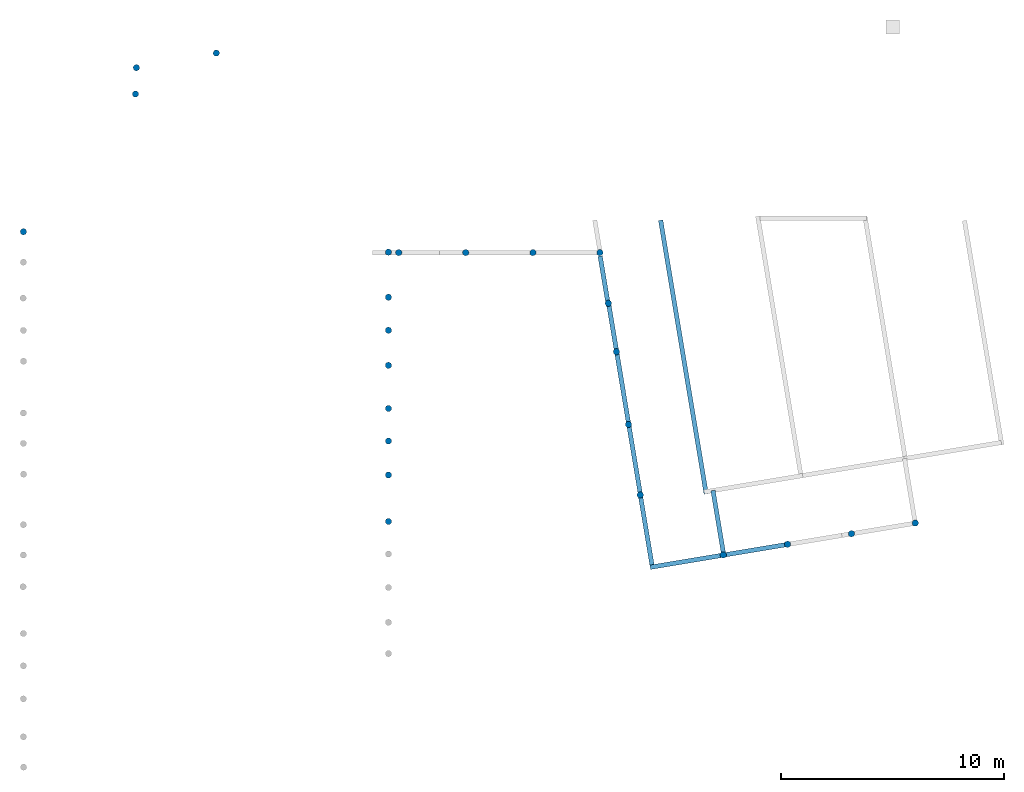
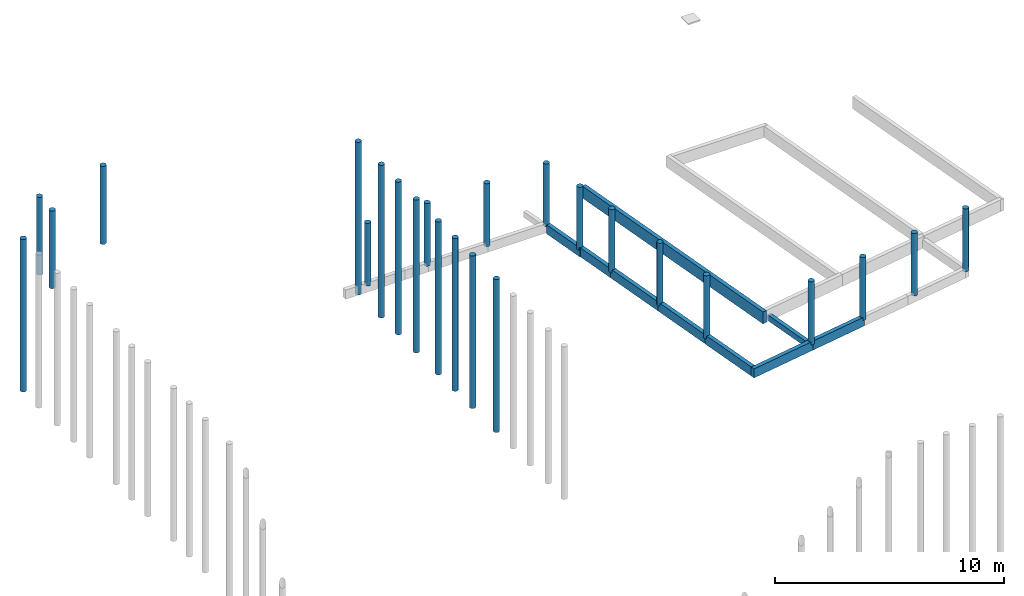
# One storey, part 2 of 4: 24 columns, 9 slabs.
"""IFC4 building model written with IfcOpenShell, lengths in metres."""

from ifc_helpers import new_model, entity, si_unit, converted_unit, derived_unit, direction, frame, origin, place, context, subcontext, project, spatial, arc, indexed_curve, outline, extrude, source, transform, mapped, material, type_object, type_shapes, element, save


model = new_model("IFC4")

# Units and contexts
model_context = context("Model", 3, precision=1e-05, world=origin(), true_north=direction((6.123031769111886e-17, 1.0)))
body_context = subcontext(model_context, "Body", "Model", "MODEL_VIEW")
ifc_project = project(units=[si_unit("LENGTHUNIT", "METRE"), si_unit("AREAUNIT", "SQUARE_METRE"), si_unit("VOLUMEUNIT", "CUBIC_METRE"), converted_unit("PLANEANGLEUNIT", "DEGREE", entity("IfcRatioMeasure", 0.017453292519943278), si_unit("PLANEANGLEUNIT", "RADIAN"), dimensions=[0, 0, 0, 0, 0, 0, 0]), si_unit("MASSUNIT", "GRAM", prefix="KILO"), derived_unit("MASSDENSITYUNIT", [(si_unit("MASSUNIT", "GRAM", prefix="KILO"), 1), (si_unit("LENGTHUNIT", "METRE"), -3)]), derived_unit("MOMENTOFINERTIAUNIT", [(si_unit("LENGTHUNIT", "METRE"), 4)]), si_unit("TIMEUNIT", "SECOND"), si_unit("FREQUENCYUNIT", "HERTZ"), si_unit("THERMODYNAMICTEMPERATUREUNIT", "DEGREE_CELSIUS"), derived_unit("THERMALTRANSMITTANCEUNIT", [(si_unit("MASSUNIT", "GRAM", prefix="KILO"), 1), (si_unit("THERMODYNAMICTEMPERATUREUNIT", "KELVIN"), -1), (si_unit("TIMEUNIT", "SECOND"), -3)]), derived_unit("VOLUMETRICFLOWRATEUNIT", [(si_unit("LENGTHUNIT", "METRE"), 3), (si_unit("TIMEUNIT", "SECOND"), -1)]), derived_unit("MASSFLOWRATEUNIT", [(si_unit("MASSUNIT", "GRAM", prefix="KILO"), 1), (si_unit("TIMEUNIT", "SECOND"), -1)]), derived_unit("ROTATIONALFREQUENCYUNIT", [(si_unit("TIMEUNIT", "SECOND"), -1)]), si_unit("ELECTRICCURRENTUNIT", "AMPERE"), si_unit("ELECTRICVOLTAGEUNIT", "VOLT"), si_unit("POWERUNIT", "WATT"), si_unit("FORCEUNIT", "NEWTON", prefix="KILO"), si_unit("ILLUMINANCEUNIT", "LUX"), si_unit("LUMINOUSFLUXUNIT", "LUMEN"), si_unit("LUMINOUSINTENSITYUNIT", "CANDELA"), derived_unit("USERDEFINED", [(si_unit("MASSUNIT", "GRAM", prefix="KILO"), -1), (si_unit("LENGTHUNIT", "METRE"), -2), (si_unit("TIMEUNIT", "SECOND"), 3), (si_unit("LUMINOUSFLUXUNIT", "LUMEN"), 1)]), derived_unit("SOUNDPOWERUNIT", [(si_unit("MASSUNIT", "GRAM", prefix="KILO"), 1), (si_unit("LENGTHUNIT", "METRE"), 2), (si_unit("TIMEUNIT", "SECOND"), -3)]), derived_unit("SOUNDPRESSUREUNIT", [(si_unit("MASSUNIT", "GRAM", prefix="KILO"), 1), (si_unit("LENGTHUNIT", "METRE"), -1), (si_unit("TIMEUNIT", "SECOND"), -2)]), derived_unit("LINEARVELOCITYUNIT", [(si_unit("LENGTHUNIT", "METRE"), 1), (si_unit("TIMEUNIT", "SECOND"), -1)]), si_unit("PRESSUREUNIT", "PASCAL"), derived_unit("USERDEFINED", [(si_unit("LENGTHUNIT", "METRE"), -2), (si_unit("MASSUNIT", "GRAM", prefix="KILO"), 1), (si_unit("TIMEUNIT", "SECOND"), -2)]), derived_unit("LINEARFORCEUNIT", [(si_unit("MASSUNIT", "GRAM", prefix="KILO"), 1), (si_unit("LENGTHUNIT", "METRE"), 1), (si_unit("TIMEUNIT", "SECOND"), -2), (si_unit("LENGTHUNIT", "METRE"), -1)]), derived_unit("PLANARFORCEUNIT", [(si_unit("MASSUNIT", "GRAM", prefix="KILO"), 1), (si_unit("LENGTHUNIT", "METRE"), 1), (si_unit("TIMEUNIT", "SECOND"), -2), (si_unit("LENGTHUNIT", "METRE"), -2)])], contexts=[model_context])

# Site, building, storey
site_placement = place(None, origin())
site = spatial("IfcSite", under=ifc_project, at=site_placement, Name="Default", CompositionType="ELEMENT")
building_placement = place(site_placement, origin())
building = spatial("IfcBuilding", under=site, at=building_placement, CompositionType="ELEMENT")
storey_placement = place(building_placement, frame((0.0, 0.0, -0.63)))
storey = spatial("IfcBuildingStorey", under=building, at=storey_placement, Name="Arase inf longrines", CompositionType="ELEMENT", Elevation=-0.63)

# Columns
ifc_material = material(Name="Maçonnerie - Béton", Category="Béton")
column_type_1 = type_object("IfcColumnType", Name="Poteaux support métallique:Poteaux support métallique", PredefinedType="COLUMN", material=ifc_material)
shared_shape_1 = source(origin(), body_context, "Body", "SweptSolid", [
    extrude(outline(indexed_curve([(0.14142135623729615, 0.0), (1.0828671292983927e-15, 0.14142135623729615), (-0.14142135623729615, 0.0), (0.0, -0.14142135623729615)], segments=[arc(1, 2, 3), arc(3, 4, 1)], self_intersect=False)), frame((-6.983450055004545, 9.159106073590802, -0.2924095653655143), z_axis=(0.0, 0.0, 1.0), x_axis=(-1.0, 0.0, 0.0)), (0.0, 0.0, 1.0), 3.3347972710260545),
])
type_shapes(column_type_1, [shared_shape_1])
column_1_placement = place(storey_placement, frame((0.0, 0.0, 0.63)))
element("IfcColumn", 1, at=column_1_placement, inside=storey, type_object=column_type_1, material=ifc_material, Name="Poteaux support métallique:Poteaux support métallique", ObjectType="Poteaux support métallique:Poteaux support métallique", PredefinedType="COLUMN", context=body_context, shape_type="MappedRepresentation", body=[
    mapped(shared_shape_1, transform((0.0, 0.0, 0.0), scale=1.0)),
])
column_type_2 = type_object("IfcColumnType", Name="Poteaux support métallique1:Poteaux support métallique", PredefinedType="COLUMN", material=ifc_material)
shared_shape_2 = source(origin(), body_context, "Body", "SweptSolid", [
    extrude(outline(indexed_curve([(0.14142135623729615, 0.0), (1.0828671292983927e-15, 0.14142135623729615), (-0.14142135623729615, 0.0), (0.0, -0.14142135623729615)], segments=[arc(1, 2, 3), arc(3, 4, 1)], self_intersect=False)), frame((-6.983450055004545, 9.159106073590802, -0.30164232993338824), z_axis=(0.0, 0.0, 1.0), x_axis=(-1.0, 0.0, 0.0)), (0.0, 0.0, 1.0), 3.3531186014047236),
])
type_shapes(column_type_2, [shared_shape_2])
column_2_placement = place(storey_placement, frame((3.0099999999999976, 0.0, 0.6299999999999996)))
element("IfcColumn", 2, at=column_2_placement, inside=storey, type_object=column_type_2, material=ifc_material, Name="Poteaux support métallique1:Poteaux support métallique", ObjectType="Poteaux support métallique1:Poteaux support métallique", PredefinedType="COLUMN", context=body_context, shape_type="MappedRepresentation", body=[
    mapped(shared_shape_2, transform((0.0, 0.0, 0.0), scale=1.0)),
])
column_type_3 = type_object("IfcColumnType", Name="Poteaux support métallique2:Poteaux support métallique", PredefinedType="COLUMN", material=ifc_material)
shared_shape_3 = source(origin(), body_context, "Body", "SweptSolid", [
    extrude(outline(indexed_curve([(0.14142135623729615, 0.0), (1.0828671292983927e-15, 0.14142135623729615), (-0.14142135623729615, 0.0), (0.0, -0.14142135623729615)], segments=[arc(1, 2, 3), arc(3, 4, 1)], self_intersect=False)), frame((-6.983450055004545, 9.159106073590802, -0.30164232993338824), z_axis=(0.0, 0.0, 1.0), x_axis=(-1.0, 0.0, 0.0)), (0.0, 0.0, 1.0), 3.3469615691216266),
])
type_shapes(column_type_3, [shared_shape_3])
column_3_placement = place(storey_placement, frame((6.009999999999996, 0.0, 0.6299999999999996)))
element("IfcColumn", 3, at=column_3_placement, inside=storey, type_object=column_type_3, material=ifc_material, Name="Poteaux support métallique2:Poteaux support métallique", ObjectType="Poteaux support métallique2:Poteaux support métallique", PredefinedType="COLUMN", context=body_context, shape_type="MappedRepresentation", body=[
    mapped(shared_shape_3, transform((0.0, 0.0, 0.0), scale=1.0)),
])
column_type_4 = type_object("IfcColumnType", Name="Poteaux support métallique3:Poteaux support métallique", PredefinedType="COLUMN", material=ifc_material)
shared_shape_4 = source(origin(), body_context, "Body", "SweptSolid", [
    extrude(outline(indexed_curve([(0.14142135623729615, 0.0), (1.0828671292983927e-15, 0.14142135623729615), (-0.14142135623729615, 0.0), (0.0, -0.14142135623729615)], segments=[arc(1, 2, 3), arc(3, 4, 1)], self_intersect=False)), frame((-6.983450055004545, 9.159106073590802, -0.3069051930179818), z_axis=(0.0, 0.0, 1.0), x_axis=(-1.0, 0.0, 0.0)), (0.0, 0.0, 1.0), 3.362177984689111),
])
type_shapes(column_type_4, [shared_shape_4])
column_4_placement = place(storey_placement, frame((6.387629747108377, -2.268787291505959, 0.6299999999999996)))
element("IfcColumn", 4, at=column_4_placement, inside=storey, type_object=column_type_4, material=ifc_material, Name="Poteaux support métallique3:Poteaux support métallique", ObjectType="Poteaux support métallique3:Poteaux support métallique", PredefinedType="COLUMN", context=body_context, shape_type="MappedRepresentation", body=[
    mapped(shared_shape_4, transform((0.0, 0.0, 0.0), scale=1.0)),
])
column_type_5 = type_object("IfcColumnType", Name="Poteaux support métallique4:Poteaux support métallique", PredefinedType="COLUMN", material=ifc_material)
shared_shape_5 = source(origin(), body_context, "Body", "SweptSolid", [
    extrude(outline(indexed_curve([(0.14142135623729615, 0.0), (1.0828671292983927e-15, 0.14142135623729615), (-0.14142135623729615, 0.0), (0.0, -0.14142135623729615)], segments=[arc(1, 2, 3), arc(3, 4, 1)], self_intersect=False)), frame((-6.983450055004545, 9.159106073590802, -0.31876809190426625), z_axis=(0.0, 0.0, 1.0), x_axis=(-1.0, 0.0, 0.0)), (0.0, 0.0, 1.0), 3.368415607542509),
])
type_shapes(column_type_5, [shared_shape_5])
column_5_placement = place(storey_placement, frame((6.748840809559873, -4.438931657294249, 0.6299999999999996)))
element("IfcColumn", 5, at=column_5_placement, inside=storey, type_object=column_type_5, material=ifc_material, Name="Poteaux support métallique4:Poteaux support métallique", ObjectType="Poteaux support métallique4:Poteaux support métallique", PredefinedType="COLUMN", context=body_context, shape_type="MappedRepresentation", body=[
    mapped(shared_shape_5, transform((0.0, 0.0, 0.0), scale=1.0)),
])
column_type_6 = type_object("IfcColumnType", Name="Poteaux support métallique5:Poteaux support métallique", PredefinedType="COLUMN", material=ifc_material)
shared_shape_6 = source(origin(), body_context, "Body", "SweptSolid", [
    extrude(outline(indexed_curve([(0.14142135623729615, 0.0), (1.0828671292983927e-15, 0.14142135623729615), (-0.14142135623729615, 0.0), (0.0, -0.14142135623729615)], segments=[arc(1, 2, 3), arc(3, 4, 1)], self_intersect=False)), frame((-6.983450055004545, 9.159106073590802, -0.29504229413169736), z_axis=(0.0, 0.0, 1.0), x_axis=(-1.0, 0.0, 0.0)), (0.0, 0.0, 1.0), 3.339698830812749),
])
type_shapes(column_type_6, [shared_shape_6])
column_6_placement = place(storey_placement, frame((7.290657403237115, -7.694148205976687, 0.6299999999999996)))
element("IfcColumn", 6, at=column_6_placement, inside=storey, type_object=column_type_6, material=ifc_material, Name="Poteaux support métallique5:Poteaux support métallique", ObjectType="Poteaux support métallique5:Poteaux support métallique", PredefinedType="COLUMN", context=body_context, shape_type="MappedRepresentation", body=[
    mapped(shared_shape_6, transform((0.0, 0.0, 0.0), scale=1.0)),
])
column_type_7 = type_object("IfcColumnType", Name="Poteaux support métallique6:Poteaux support métallique", PredefinedType="COLUMN", material=ifc_material)
shared_shape_7 = source(origin(), body_context, "Body", "SweptSolid", [
    extrude(outline(indexed_curve([(0.14142135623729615, 0.0), (1.0828671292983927e-15, 0.14142135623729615), (-0.14142135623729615, 0.0), (0.0, -0.14142135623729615)], segments=[arc(1, 2, 3), arc(3, 4, 1)], self_intersect=False)), frame((-6.983450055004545, 9.159106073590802, -0.31876809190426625), z_axis=(0.0, 0.0, 1.0), x_axis=(-1.0, 0.0, 0.0)), (0.0, 0.0, 1.0), 3.36342462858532),
])
type_shapes(column_type_7, [shared_shape_7])
column_7_placement = place(storey_placement, frame((7.816055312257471, -10.850721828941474, 0.6299999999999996)))
element("IfcColumn", 7, at=column_7_placement, inside=storey, type_object=column_type_7, material=ifc_material, Name="Poteaux support métallique6:Poteaux support métallique", ObjectType="Poteaux support métallique6:Poteaux support métallique", PredefinedType="COLUMN", context=body_context, shape_type="MappedRepresentation", body=[
    mapped(shared_shape_7, transform((0.0, 0.0, 0.0), scale=1.0)),
])
column_type_8 = type_object("IfcColumnType", Name="Poteaux support métallique8:Poteaux support métallique", PredefinedType="COLUMN", material=ifc_material)
shared_shape_8 = source(origin(), body_context, "Body", "SweptSolid", [
    extrude(outline(indexed_curve([(0.14142135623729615, 0.0), (1.0828671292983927e-15, 0.14142135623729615), (-0.14142135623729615, 0.0), (0.0, -0.14142135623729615)], segments=[arc(1, 2, 3), arc(3, 4, 1)], self_intersect=False)), frame((-6.983450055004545, 9.159106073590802, -0.31042048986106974), z_axis=(0.0, 0.0, 1.0), x_axis=(-1.0, 0.0, 0.0)), (0.0, 0.0, 1.0), 3.3623372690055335),
])
type_shapes(column_type_8, [shared_shape_8])
column_8_placement = place(storey_placement, frame((11.534445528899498, -13.540540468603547, 0.6299999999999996)))
element("IfcColumn", 8, at=column_8_placement, inside=storey, type_object=column_type_8, material=ifc_material, Name="Poteaux support métallique8:Poteaux support métallique", ObjectType="Poteaux support métallique8:Poteaux support métallique", PredefinedType="COLUMN", context=body_context, shape_type="MappedRepresentation", body=[
    mapped(shared_shape_8, transform((0.0, 0.0, 0.0), scale=1.0)),
])
column_type_9 = type_object("IfcColumnType", Name="Poteaux support métallique9:Poteaux support métallique", PredefinedType="COLUMN", material=ifc_material)
shared_shape_9 = source(origin(), body_context, "Body", "SweptSolid", [
    extrude(outline(indexed_curve([(0.14142135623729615, 0.0), (1.0828671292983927e-15, 0.14142135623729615), (-0.14142135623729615, 0.0), (0.0, -0.14142135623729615)], segments=[arc(1, 2, 3), arc(3, 4, 1)], self_intersect=False)), frame((-6.983450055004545, 9.159106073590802, -0.2976400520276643), z_axis=(0.0, 0.0, 1.0), x_axis=(-1.0, 0.0, 0.0)), (0.0, 0.0, 1.0), 3.3442634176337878),
])
type_shapes(column_type_9, [shared_shape_9])
column_9_placement = place(storey_placement, frame((14.415090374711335, -13.064398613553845, 0.6299999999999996)))
element("IfcColumn", 9, at=column_9_placement, inside=storey, type_object=column_type_9, material=ifc_material, Name="Poteaux support métallique9:Poteaux support métallique", ObjectType="Poteaux support métallique9:Poteaux support métallique", PredefinedType="COLUMN", context=body_context, shape_type="MappedRepresentation", body=[
    mapped(shared_shape_9, transform((0.0, 0.0, 0.0), scale=1.0)),
])
column_type_10 = type_object("IfcColumnType", Name="Poteaux support métallique10:Poteaux support métallique", PredefinedType="COLUMN", material=ifc_material)
shared_shape_10 = source(origin(), body_context, "Body", "SweptSolid", [
    extrude(outline(indexed_curve([(0.14142135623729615, 0.0), (1.0828671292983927e-15, 0.14142135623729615), (-0.14142135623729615, 0.0), (0.0, -0.14142135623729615)], segments=[arc(1, 2, 3), arc(3, 4, 1)], self_intersect=False)), frame((-6.983450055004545, 9.159106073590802, -0.2976400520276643), z_axis=(0.0, 0.0, 1.0), x_axis=(-1.0, 0.0, 0.0)), (0.0, 0.0, 1.0), 3.334654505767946),
])
type_shapes(column_type_10, [shared_shape_10])
column_10_placement = place(storey_placement, frame((17.27573522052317, -12.588256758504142, 0.6299999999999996)))
element("IfcColumn", 10, at=column_10_placement, inside=storey, type_object=column_type_10, material=ifc_material, Name="Poteaux support métallique10:Poteaux support métallique", ObjectType="Poteaux support métallique10:Poteaux support métallique", PredefinedType="COLUMN", context=body_context, shape_type="MappedRepresentation", body=[
    mapped(shared_shape_10, transform((0.0, 0.0, 0.0), scale=1.0)),
])
column_type_11 = type_object("IfcColumnType", Name="Poteaux support métallique11:Poteaux support métallique", PredefinedType="COLUMN", material=ifc_material)
shared_shape_11 = source(origin(), body_context, "Body", "SweptSolid", [
    extrude(outline(indexed_curve([(0.14142135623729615, 0.0), (1.0828671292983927e-15, 0.14142135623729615), (-0.14142135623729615, 0.0), (0.0, -0.14142135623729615)], segments=[arc(1, 2, 3), arc(3, 4, 1)], self_intersect=False)), frame((-6.983450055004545, 9.159106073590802, -0.2976400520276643), z_axis=(0.0, 0.0, 1.0), x_axis=(-1.0, 0.0, 0.0)), (0.0, 0.0, 1.0), 3.3532344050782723),
])
type_shapes(column_type_11, [shared_shape_11])
column_11_placement = place(storey_placement, frame((20.136380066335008, -12.11211490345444, 0.6299999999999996)))
element("IfcColumn", 11, at=column_11_placement, inside=storey, type_object=column_type_11, material=ifc_material, Name="Poteaux support métallique11:Poteaux support métallique", ObjectType="Poteaux support métallique11:Poteaux support métallique", PredefinedType="COLUMN", context=body_context, shape_type="MappedRepresentation", body=[
    mapped(shared_shape_11, transform((0.0, 0.0, 0.0), scale=1.0)),
])
column_type_12 = type_object("IfcColumnType", Name="Poteaux support métallique12:Poteaux support métallique", PredefinedType="COLUMN", material=ifc_material)
shared_shape_12 = source(origin(), body_context, "Body", "SweptSolid", [
    extrude(outline(indexed_curve([(0.14142135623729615, 0.0), (1.0828671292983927e-15, 0.14142135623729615), (-0.14142135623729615, 0.0), (0.0, -0.14142135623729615)], segments=[arc(1, 2, 3), arc(3, 4, 1)], self_intersect=False)), frame((-6.983450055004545, 9.159106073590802, -0.30164232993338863), z_axis=(0.0, 0.0, 1.0), x_axis=(-1.0, 0.0, 0.0)), (0.0, 0.0, 1.0), 3.343921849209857),
])
type_shapes(column_type_12, [shared_shape_12])
column_12_placement = place(storey_placement, frame((-3.0, 0.0, 0.63)))
element("IfcColumn", 12, at=column_12_placement, inside=storey, type_object=column_type_12, material=ifc_material, Name="Poteaux support métallique12:Poteaux support métallique", ObjectType="Poteaux support métallique12:Poteaux support métallique", PredefinedType="COLUMN", context=body_context, shape_type="MappedRepresentation", body=[
    mapped(shared_shape_12, transform((0.0, 0.0, 0.0), scale=1.0)),
])
column_type_13 = type_object("IfcColumnType", Name="Poteaux support métallique13:Poteaux support métallique", PredefinedType="COLUMN", material=ifc_material)
shared_shape_13 = source(origin(), body_context, "Body", "SweptSolid", [
    extrude(outline(indexed_curve([(0.14142135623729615, 0.0), (1.0828671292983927e-15, 0.14142135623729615), (-0.14142135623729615, 0.0), (0.0, -0.14142135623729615)], segments=[arc(1, 2, 3), arc(3, 4, 1)], self_intersect=False)), frame((-6.983450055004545, 9.159106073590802, -0.6250722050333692), z_axis=(0.0, 0.0, 1.0), x_axis=(-1.0, 0.0, 0.0)), (0.0, 0.0, 1.0), 8.133194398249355),
])
type_shapes(column_type_13, [shared_shape_13])
column_13_placement = place(storey_placement, frame((-3.4599999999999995, 0.020000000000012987, 0.63)))
element("IfcColumn", 13, at=column_13_placement, inside=storey, type_object=column_type_13, material=ifc_material, Name="Poteaux support métallique13:Poteaux support métallique", ObjectType="Poteaux support métallique13:Poteaux support métallique", PredefinedType="COLUMN", context=body_context, shape_type="MappedRepresentation", body=[
    mapped(shared_shape_13, transform((0.0, 0.0, 0.0), scale=1.0)),
])
column_type_14 = type_object("IfcColumnType", Name="Poteaux support métallique14:Poteaux support métallique", PredefinedType="COLUMN", material=ifc_material)
shared_shape_14 = source(origin(), body_context, "Body", "SweptSolid", [
    extrude(outline(indexed_curve([(0.14142135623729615, 0.0), (1.0828671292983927e-15, 0.14142135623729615), (-0.14142135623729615, 0.0), (0.0, -0.14142135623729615)], segments=[arc(1, 2, 3), arc(3, 4, 1)], self_intersect=False)), frame((-6.983450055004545, 9.159106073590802, -0.6259069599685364), z_axis=(0.0, 0.0, 1.0), x_axis=(-1.0, 0.0, 0.0)), (0.0, 0.0, 1.0), 8.133178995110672),
])
type_shapes(column_type_14, [shared_shape_14])
column_14_placement = place(storey_placement, frame((-3.460000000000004, -2.0, 0.63)))
element("IfcColumn", 14, at=column_14_placement, inside=storey, type_object=column_type_14, material=ifc_material, Name="Poteaux support métallique14:Poteaux support métallique", ObjectType="Poteaux support métallique14:Poteaux support métallique", PredefinedType="COLUMN", context=body_context, shape_type="MappedRepresentation", body=[
    mapped(shared_shape_14, transform((0.0, 0.0, 0.0), scale=1.0)),
])
column_type_15 = type_object("IfcColumnType", Name="Poteaux support métallique15:Poteaux support métallique", PredefinedType="COLUMN", material=ifc_material)
shared_shape_15 = source(origin(), body_context, "Body", "SweptSolid", [
    extrude(outline(indexed_curve([(0.14142135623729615, 0.0), (1.0828671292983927e-15, 0.14142135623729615), (-0.14142135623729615, 0.0), (0.0, -0.14142135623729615)], segments=[arc(1, 2, 3), arc(3, 4, 1)], self_intersect=False)), frame((-6.983450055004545, 9.159106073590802, -0.6259069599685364), z_axis=(0.0, 0.0, 1.0), x_axis=(-1.0, 0.0, 0.0)), (0.0, 0.0, 1.0), 8.132542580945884),
])
type_shapes(column_type_15, [shared_shape_15])
column_15_placement = place(storey_placement, frame((-3.460000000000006, -3.4799999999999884, 0.63)))
element("IfcColumn", 15, at=column_15_placement, inside=storey, type_object=column_type_15, material=ifc_material, Name="Poteaux support métallique15:Poteaux support métallique", ObjectType="Poteaux support métallique15:Poteaux support métallique", PredefinedType="COLUMN", context=body_context, shape_type="MappedRepresentation", body=[
    mapped(shared_shape_15, transform((0.0, 0.0, 0.0), scale=1.0)),
])
column_type_16 = type_object("IfcColumnType", Name="Poteaux support métallique16:Poteaux support métallique", PredefinedType="COLUMN", material=ifc_material)
shared_shape_16 = source(origin(), body_context, "Body", "SweptSolid", [
    extrude(outline(indexed_curve([(0.14142135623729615, 0.0), (1.0828671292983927e-15, 0.14142135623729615), (-0.14142135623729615, 0.0), (0.0, -0.14142135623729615)], segments=[arc(1, 2, 3), arc(3, 4, 1)], self_intersect=False)), frame((-6.983450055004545, 9.159106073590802, -0.6342545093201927), z_axis=(0.0, 0.0, 1.0), x_axis=(-1.0, 0.0, 0.0)), (0.0, 0.0, 1.0), 8.136931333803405),
])
type_shapes(column_type_16, [shared_shape_16])
column_16_placement = place(storey_placement, frame((-3.4600000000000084, -5.049999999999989, 0.63)))
element("IfcColumn", 16, at=column_16_placement, inside=storey, type_object=column_type_16, material=ifc_material, Name="Poteaux support métallique16:Poteaux support métallique", ObjectType="Poteaux support métallique16:Poteaux support métallique", PredefinedType="COLUMN", context=body_context, shape_type="MappedRepresentation", body=[
    mapped(shared_shape_16, transform((0.0, 0.0, 0.0), scale=1.0)),
])
column_type_17 = type_object("IfcColumnType", Name="Poteaux support métallique17:Poteaux support métallique", PredefinedType="COLUMN", material=ifc_material)
shared_shape_17 = source(origin(), body_context, "Body", "SweptSolid", [
    extrude(outline(indexed_curve([(0.14142135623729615, 0.0), (1.0828671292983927e-15, 0.14142135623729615), (-0.14142135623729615, 0.0), (0.0, -0.14142135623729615)], segments=[arc(1, 2, 3), arc(3, 4, 1)], self_intersect=False)), frame((-6.983450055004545, 9.159106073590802, -0.63880987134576), z_axis=(0.0, 0.0, 1.0), x_axis=(-1.0, 0.0, 0.0)), (0.0, 0.0, 1.0), 8.147918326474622),
])
type_shapes(column_type_17, [shared_shape_17])
column_17_placement = place(storey_placement, frame((-3.4600000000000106, -6.979999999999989, 0.63)))
element("IfcColumn", 17, at=column_17_placement, inside=storey, type_object=column_type_17, material=ifc_material, Name="Poteaux support métallique17:Poteaux support métallique", ObjectType="Poteaux support métallique17:Poteaux support métallique", PredefinedType="COLUMN", context=body_context, shape_type="MappedRepresentation", body=[
    mapped(shared_shape_17, transform((0.0, 0.0, 0.0), scale=1.0)),
])
column_type_18 = type_object("IfcColumnType", Name="Poteaux support métallique18:Poteaux support métallique", PredefinedType="COLUMN", material=ifc_material)
shared_shape_18 = source(origin(), body_context, "Body", "SweptSolid", [
    extrude(outline(indexed_curve([(0.14142135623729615, 0.0), (1.0828671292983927e-15, 0.14142135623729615), (-0.14142135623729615, 0.0), (0.0, -0.14142135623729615)], segments=[arc(1, 2, 3), arc(3, 4, 1)], self_intersect=False)), frame((-6.983450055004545, 9.159106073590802, -0.6242099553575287), z_axis=(0.0, 0.0, 1.0), x_axis=(-1.0, 0.0, 0.0)), (0.0, 0.0, 1.0), 8.13572839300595),
])
type_shapes(column_type_18, [shared_shape_18])
column_18_placement = place(storey_placement, frame((-3.4600000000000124, -8.439999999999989, 0.63)))
element("IfcColumn", 18, at=column_18_placement, inside=storey, type_object=column_type_18, material=ifc_material, Name="Poteaux support métallique18:Poteaux support métallique", ObjectType="Poteaux support métallique18:Poteaux support métallique", PredefinedType="COLUMN", context=body_context, shape_type="MappedRepresentation", body=[
    mapped(shared_shape_18, transform((0.0, 0.0, 0.0), scale=1.0)),
])
column_type_19 = type_object("IfcColumnType", Name="Poteaux support métallique19:Poteaux support métallique", PredefinedType="COLUMN", material=ifc_material)
shared_shape_19 = source(origin(), body_context, "Body", "SweptSolid", [
    extrude(outline(indexed_curve([(0.14142135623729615, 0.0), (1.0828671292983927e-15, 0.14142135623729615), (-0.14142135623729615, 0.0), (0.0, -0.14142135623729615)], segments=[arc(1, 2, 3), arc(3, 4, 1)], self_intersect=False)), frame((-6.983450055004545, 9.159106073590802, -0.6249275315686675), z_axis=(0.0, 0.0, 1.0), x_axis=(-1.0, 0.0, 0.0)), (0.0, 0.0, 1.0), 8.130371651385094),
])
type_shapes(column_type_19, [shared_shape_19])
column_19_placement = place(storey_placement, frame((-3.4600000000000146, -9.959999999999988, 0.63)))
element("IfcColumn", 19, at=column_19_placement, inside=storey, type_object=column_type_19, material=ifc_material, Name="Poteaux support métallique19:Poteaux support métallique", ObjectType="Poteaux support métallique19:Poteaux support métallique", PredefinedType="COLUMN", context=body_context, shape_type="MappedRepresentation", body=[
    mapped(shared_shape_19, transform((0.0, 0.0, 0.0), scale=1.0)),
])
column_type_20 = type_object("IfcColumnType", Name="Poteaux support métallique20:Poteaux support métallique", PredefinedType="COLUMN", material=ifc_material)
shared_shape_20 = source(origin(), body_context, "Body", "SweptSolid", [
    extrude(outline(indexed_curve([(0.14142135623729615, 0.0), (1.0828671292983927e-15, 0.14142135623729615), (-0.14142135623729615, 0.0), (0.0, -0.14142135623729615)], segments=[arc(1, 2, 3), arc(3, 4, 1)], self_intersect=False)), frame((-6.983450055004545, 9.159106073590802, -0.6359671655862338), z_axis=(0.0, 0.0, 1.0), x_axis=(-1.0, 0.0, 0.0)), (0.0, 0.0, 1.0), 8.144235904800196),
])
type_shapes(column_type_20, [shared_shape_20])
column_20_placement = place(storey_placement, frame((-3.460000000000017, -12.039999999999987, 0.63)))
element("IfcColumn", 20, at=column_20_placement, inside=storey, type_object=column_type_20, material=ifc_material, Name="Poteaux support métallique20:Poteaux support métallique", ObjectType="Poteaux support métallique20:Poteaux support métallique", PredefinedType="COLUMN", context=body_context, shape_type="MappedRepresentation", body=[
    mapped(shared_shape_20, transform((0.0, 0.0, 0.0), scale=1.0)),
])
column_type_21 = type_object("IfcColumnType", Name="Poteaux support métallique24:Poteaux support métallique", PredefinedType="COLUMN", material=ifc_material)
shared_shape_21 = source(origin(), body_context, "Body", "SweptSolid", [
    extrude(outline(indexed_curve([(0.14142135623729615, 0.0), (1.0828671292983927e-15, 0.14142135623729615), (-0.14142135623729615, 0.0), (0.0, -0.14142135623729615)], segments=[arc(1, 2, 3), arc(3, 4, 1)], self_intersect=False)), frame((-6.983450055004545, 9.159106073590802, -0.6389003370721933), z_axis=(0.0, 0.0, 1.0), x_axis=(-1.0, 0.0, 0.0)), (0.0, 0.0, 1.0), 4.160669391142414),
])
type_shapes(column_type_21, [shared_shape_21])
column_21_placement = place(storey_placement, frame((-11.16904489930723, 8.935405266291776, 0.63)))
element("IfcColumn", 21, at=column_21_placement, inside=storey, type_object=column_type_21, material=ifc_material, Name="Poteaux support métallique24:Poteaux support métallique", ObjectType="Poteaux support métallique24:Poteaux support métallique", PredefinedType="COLUMN", context=body_context, shape_type="MappedRepresentation", body=[
    mapped(shared_shape_21, transform((0.0, 0.0, 0.0), scale=1.0)),
])
column_type_22 = type_object("IfcColumnType", Name="Poteaux support métallique25:Poteaux support métallique", PredefinedType="COLUMN", material=ifc_material)
shared_shape_22 = source(origin(), body_context, "Body", "SweptSolid", [
    extrude(outline(indexed_curve([(0.14142135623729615, 0.0), (1.0828671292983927e-15, 0.14142135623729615), (-0.14142135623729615, 0.0), (0.0, -0.14142135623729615)], segments=[arc(1, 2, 3), arc(3, 4, 1)], self_intersect=False)), frame((-6.983450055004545, 9.159106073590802, -0.623638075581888), z_axis=(0.0, 0.0, 1.0), x_axis=(-1.0, 0.0, 0.0)), (0.0, 0.0, 1.0), 4.144747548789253),
])
type_shapes(column_type_22, [shared_shape_22])
column_22_placement = place(storey_placement, frame((-14.749999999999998, 8.28098511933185, 0.63)))
element("IfcColumn", 22, at=column_22_placement, inside=storey, type_object=column_type_22, material=ifc_material, Name="Poteaux support métallique25:Poteaux support métallique", ObjectType="Poteaux support métallique25:Poteaux support métallique", PredefinedType="COLUMN", context=body_context, shape_type="MappedRepresentation", body=[
    mapped(shared_shape_22, transform((0.0, 0.0, 0.0), scale=1.0)),
])
column_type_23 = type_object("IfcColumnType", Name="Poteaux support métallique26:Poteaux support métallique", PredefinedType="COLUMN", material=ifc_material)
shared_shape_23 = source(origin(), body_context, "Body", "SweptSolid", [
    extrude(outline(indexed_curve([(0.14142135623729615, 0.0), (1.0828671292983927e-15, 0.14142135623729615), (-0.14142135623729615, 0.0), (0.0, -0.14142135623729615)], segments=[arc(1, 2, 3), arc(3, 4, 1)], self_intersect=False)), frame((-6.983450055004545, 9.159106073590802, -0.6165393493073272), z_axis=(0.0, 0.0, 1.0), x_axis=(-1.0, 0.0, 0.0)), (0.0, 0.0, 1.0), 4.135036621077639),
])
type_shapes(column_type_23, [shared_shape_23])
column_23_placement = place(storey_placement, frame((-14.790000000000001, 7.100985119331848, 0.63)))
element("IfcColumn", 23, at=column_23_placement, inside=storey, type_object=column_type_23, material=ifc_material, Name="Poteaux support métallique26:Poteaux support métallique", ObjectType="Poteaux support métallique26:Poteaux support métallique", PredefinedType="COLUMN", context=body_context, shape_type="MappedRepresentation", body=[
    mapped(shared_shape_23, transform((0.0, 0.0, 0.0), scale=1.0)),
])
column_type_24 = type_object("IfcColumnType", Name="Poteaux support métallique27:Poteaux support métallique", PredefinedType="COLUMN", material=ifc_material)
shared_shape_24 = source(origin(), body_context, "Body", "SweptSolid", [
    extrude(outline(indexed_curve([(0.14142135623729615, 0.0), (1.0828671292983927e-15, 0.14142135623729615), (-0.14142135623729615, 0.0), (0.0, -0.14142135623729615)], segments=[arc(1, 2, 3), arc(3, 4, 1)], self_intersect=False)), frame((-6.983450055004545, 9.159106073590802, -0.6233154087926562), z_axis=(0.0, 0.0, 1.0), x_axis=(-1.0, 0.0, 0.0)), (0.0, 0.0, 1.0), 8.12731916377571),
])
type_shapes(column_type_24, [shared_shape_24])
column_24_placement = place(storey_placement, frame((-19.81000000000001, 0.9353368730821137, 0.63)))
element("IfcColumn", 24, at=column_24_placement, inside=storey, type_object=column_type_24, material=ifc_material, Name="Poteaux support métallique27:Poteaux support métallique", ObjectType="Poteaux support métallique27:Poteaux support métallique", PredefinedType="COLUMN", context=body_context, shape_type="MappedRepresentation", body=[
    mapped(shared_shape_24, transform((0.0, 0.0, 0.0), scale=1.0)),
])

# Slabs
slab_type_1 = type_object("IfcSlabType", Name="Lg01 20*30:Lg01 20*30", PredefinedType="BASESLAB")
slab_1_placement = place(storey_placement, origin())
element("IfcSlab", 25, at=slab_1_placement, inside=storey, type_object=slab_type_1, Name="Lg01 20*30:Lg01 20*30", ObjectType="Lg01 20*30:Lg01 20*30", PredefinedType="BASESLAB", context=body_context, shape_type="SweptSolid", body=[
    extrude(outline(indexed_curve([(-1.5780359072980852, -0.10000000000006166), (1.5780359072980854, -0.10000000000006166), (1.5780359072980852, 0.1000000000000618), (-1.5780359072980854, 0.1000000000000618), (-1.5780359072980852, -0.10000000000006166)], self_intersect=False)), frame((1.0993883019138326, -3.264156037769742, 0.0), z_axis=(0.0, 0.0, 1.0), x_axis=(-0.16418684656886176, 0.9864292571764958, 0.0)), (0.0, 0.0, 1.0), 0.47999999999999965),
])
slab_type_2 = type_object("IfcSlabType", Name="Lg01 20*1:Lg01 20*30", PredefinedType="BASESLAB")
slab_2_placement = place(storey_placement, origin())
element("IfcSlab", 26, at=slab_2_placement, inside=storey, type_object=slab_type_2, Name="Lg01 20*1:Lg01 20*30", ObjectType="Lg01 20*1:Lg01 20*30", PredefinedType="BASESLAB", context=body_context, shape_type="SweptSolid", body=[
    extrude(outline(indexed_curve([(-1.6250000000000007, -0.10000000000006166), (1.6250000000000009, -0.10000000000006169), (1.6250000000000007, 0.1000000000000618), (-1.6250000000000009, 0.10000000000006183), (-1.6250000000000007, -0.10000000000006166)], self_intersect=False)), frame((0.5782279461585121, -0.10346271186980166, 0.0), z_axis=(0.0, 0.0, 1.0), x_axis=(-0.1641868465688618, 0.9864292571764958, 0.0)), (0.0, 0.0, 1.0), 0.47999999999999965),
])
slab_type_3 = type_object("IfcSlabType", Name="Lg01 20*2:Lg01 20*30", PredefinedType="BASESLAB")
slab_3_placement = place(storey_placement, origin())
element("IfcSlab", 27, at=slab_3_placement, inside=storey, type_object=slab_type_3, Name="Lg01 20*2:Lg01 20*30", ObjectType="Lg01 20*2:Lg01 20*30", PredefinedType="BASESLAB", context=body_context, shape_type="SweptSolid", body=[
    extrude(outline(indexed_curve([(-1.6250000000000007, -0.10000000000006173), (1.6250000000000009, -0.10000000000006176), (1.6250000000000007, 0.10000000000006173), (-1.6250000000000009, 0.10000000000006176), (-1.6250000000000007, -0.10000000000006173)], self_intersect=False)), frame((0.04613417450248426, 3.102327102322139, 0.0), z_axis=(0.0, 0.0, 1.0), x_axis=(-0.1641868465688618, 0.9864292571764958, 0.0)), (0.0, 0.0, 1.0), 0.47999999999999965),
])
slab_type_4 = type_object("IfcSlabType", Name="Lg01 20*3:Lg01 20*30", PredefinedType="BASESLAB")
slab_4_placement = place(storey_placement, origin())
element("IfcSlab", 28, at=slab_4_placement, inside=storey, type_object=slab_type_4, Name="Lg01 20*3:Lg01 20*30", ObjectType="Lg01 20*3:Lg01 20*30", PredefinedType="BASESLAB", context=body_context, shape_type="SweptSolid", body=[
    extrude(outline(indexed_curve([(-1.1168355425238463, -0.10000000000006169), (1.1168355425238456, -0.10000000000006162), (1.1168355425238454, 0.10000000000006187), (-1.1168355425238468, 0.1000000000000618), (-1.1168355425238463, -0.10000000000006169)], self_intersect=False)), frame((-0.40507828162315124, 5.813196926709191, 0.0), z_axis=(0.0, 0.0, 1.0), x_axis=(-0.16418684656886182, 0.9864292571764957, 0.0)), (0.0, 0.0, 1.0), 0.47999999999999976),
])
slab_type_5 = type_object("IfcSlabType", Name="Lg01 20*4:Lg01 20*30", PredefinedType="BASESLAB")
slab_5_placement = place(storey_placement, origin())
element("IfcSlab", 29, at=slab_5_placement, inside=storey, type_object=slab_type_5, Name="Lg01 20*4:Lg01 20*30", ObjectType="Lg01 20*4:Lg01 20*30", PredefinedType="BASESLAB", context=body_context, shape_type="SweptSolid", body=[
    extrude(outline(indexed_curve([(-1.1400000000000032, -0.1000000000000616), (1.1400000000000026, -0.1000000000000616), (1.1400000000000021, 0.1000000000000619), (-1.1400000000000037, 0.10000000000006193), (-1.1400000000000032, -0.1000000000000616)], self_intersect=False)), frame((-0.7756209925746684, 7.879405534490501, 0.0), z_axis=(0.0, 0.0, 1.0), x_axis=(-0.16418684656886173, 0.9864292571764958, 0.0)), (0.0, 0.0, 1.0), 0.47999999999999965),
])
slab_type_6 = type_object("IfcSlabType", Name="Lg01 20*6:Lg01 20*30", PredefinedType="BASESLAB")
slab_6_placement = place(storey_placement, origin())
element("IfcSlab", 30, at=slab_6_placement, inside=storey, type_object=slab_type_6, Name="Lg01 20*6:Lg01 20*30", ObjectType="Lg01 20*6:Lg01 20*30", PredefinedType="BASESLAB", context=body_context, shape_type="SweptSolid", body=[
    extrude(outline(indexed_curve([(-1.6696728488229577, -0.1000000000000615), (1.6696728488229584, -0.10000000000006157), (1.6696728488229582, 0.10000000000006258), (-1.6696728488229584, 0.10000000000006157), (-1.6696728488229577, -0.1000000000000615)], self_intersect=False)), frame((2.925974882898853, -4.660563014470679, 0.0), z_axis=(0.0, 0.0, 1.0), x_axis=(-0.9864292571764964, -0.16418684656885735, 0.0)), (0.0, 0.0, 1.0), 0.47999999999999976),
])
slab_type_7 = type_object("IfcSlabType", Name="Lg01 20*7:Lg01 20*30", PredefinedType="BASESLAB")
slab_7_placement = place(storey_placement, origin())
element("IfcSlab", 31, at=slab_7_placement, inside=storey, type_object=slab_type_7, Name="Lg01 20*7:Lg01 20*30", ObjectType="Lg01 20*7:Lg01 20*30", PredefinedType="BASESLAB", context=body_context, shape_type="SweptSolid", body=[
    extrude(outline(indexed_curve([(-1.6696728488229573, -0.10000000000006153), (1.6696728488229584, -0.1000000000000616), (1.6696728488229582, 0.10000000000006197), (-1.6696728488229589, 0.10000000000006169), (-1.6696728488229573, -0.10000000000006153)], self_intersect=False)), frame((5.78661972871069, -4.184421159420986, 0.0), z_axis=(0.0, 0.0, 1.0), x_axis=(-0.9864292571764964, -0.16418684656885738, 0.0)), (0.0, 0.0, 1.0), 0.47999999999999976),
])
slab_type_8 = type_object("IfcSlabType", Name="Lg01 20*11:Lg01 20*30", PredefinedType="BASESLAB")
slab_8_placement = place(storey_placement, origin())
element("IfcSlab", 32, at=slab_8_placement, inside=storey, type_object=slab_type_8, Name="Lg01 20*11:Lg01 20*30", ObjectType="Lg01 20*11:Lg01 20*30", PredefinedType="BASESLAB", context=body_context, shape_type="SweptSolid", body=[
    extrude(outline(indexed_curve([(-1.4658514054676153, -0.10000000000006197), (1.4658514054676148, -0.10000000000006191), (1.4658514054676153, 0.10000000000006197), (-1.4658514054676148, 0.10000000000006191), (-1.4658514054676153, -0.10000000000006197)], self_intersect=False)), frame((4.332315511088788, -2.9404659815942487, 0.0), z_axis=(0.0, 0.0, 1.0), x_axis=(0.1641868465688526, -0.9864292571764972, 0.0)), (0.0, 0.0, 1.0), 0.29999999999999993),
])
slab_type_9 = type_object("IfcSlabType", Name="Lg 03 20*3:Lg 03 20*70", PredefinedType="BASESLAB")
slab_9_placement = place(storey_placement, origin())
element("IfcSlab", 33, at=slab_9_placement, inside=storey, type_object=slab_type_9, Name="Lg 03 20*3:Lg 03 20*70", ObjectType="Lg 03 20*3:Lg 03 20*70", PredefinedType="BASESLAB", context=body_context, shape_type="SweptSolid", body=[
    extrude(outline(indexed_curve([(-6.2145739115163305, -0.09999999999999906), (6.21457391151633, -0.09999999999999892), (6.2145739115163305, 0.09999999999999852), (-6.21457391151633, 0.09999999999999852), (-6.2145739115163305, -0.09999999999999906)], self_intersect=False)), frame((2.7674253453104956, 4.479365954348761, 0.0), z_axis=(0.0, 0.0, 1.0), x_axis=(0.16418684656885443, -0.9864292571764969, 0.0)), (0.0, 0.0, 1.0), 0.6299999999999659),
])

save(model, "model.ifc")
